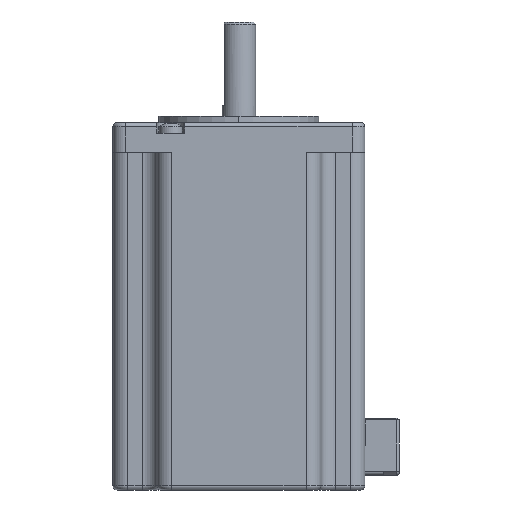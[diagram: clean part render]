
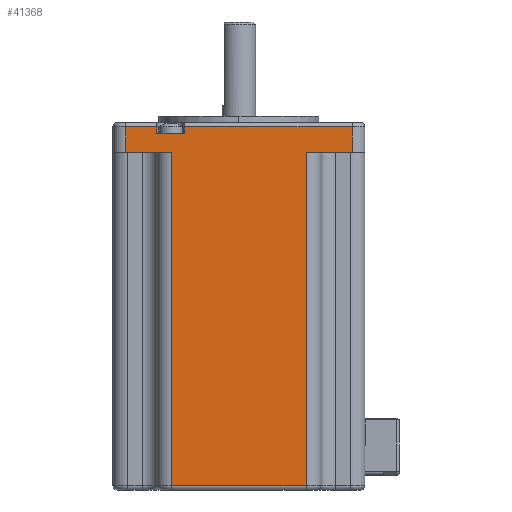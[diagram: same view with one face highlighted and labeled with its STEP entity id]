
A CAD part, left-side view. The second image highlights one B-rep face of the part: STEP entity #41368.
In plain terms, the highlighted planar face has unit normal (-1, 0, 0).
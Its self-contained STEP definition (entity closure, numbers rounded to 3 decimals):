
#1788=DIRECTION('',(0.,0.,1.));
#1789=VECTOR('',#1788,79.5);
#1790=CARTESIAN_POINT('',(-30.,-16.,1.));
#1791=LINE('',#1790,#1789);
#1806=DIRECTION('',(0.,0.,1.));
#1807=VECTOR('',#1806,6.);
#1808=CARTESIAN_POINT('',(-30.,27.,80.5));
#1809=LINE('',#1808,#1807);
#1810=DIRECTION('',(0.,-1.,0.));
#1811=VECTOR('',#1810,7.45);
#1812=CARTESIAN_POINT('',(-30.,27.,86.5));
#1813=LINE('',#1812,#1811);
#1814=DIRECTION('',(0.,0.,-1.));
#1815=VECTOR('',#1814,1.5);
#1816=CARTESIAN_POINT('',(-30.,19.55,86.5));
#1817=LINE('',#1816,#1815);
#1818=DIRECTION('',(0.,1.,0.));
#1819=VECTOR('',#1818,6.6);
#1820=CARTESIAN_POINT('',(-30.,12.95,85.));
#1821=LINE('',#1820,#1819);
#1822=DIRECTION('',(0.,0.,-1.));
#1823=VECTOR('',#1822,1.5);
#1824=CARTESIAN_POINT('',(-30.,12.95,86.5));
#1825=LINE('',#1824,#1823);
#1826=DIRECTION('',(0.,-1.,0.));
#1827=VECTOR('',#1826,39.95);
#1828=CARTESIAN_POINT('',(-30.,12.95,86.5));
#1829=LINE('',#1828,#1827);
#1830=DIRECTION('',(0.,0.,1.));
#1831=VECTOR('',#1830,6.);
#1832=CARTESIAN_POINT('',(-30.,-27.,
80.501));
#1833=LINE('',#1832,#1831);
#1834=DIRECTION('',(0.,1.,0.));
#1835=VECTOR('',#1834,32.);
#1836=CARTESIAN_POINT('',(-30.,-16.,1.));
#1837=LINE('',#1836,#1835);
#1847=DIRECTION('',(0.,0.,-1.));
#1848=VECTOR('',#1847,79.5);
#1849=CARTESIAN_POINT('',(-30.,16.,80.5));
#1850=LINE('',#1849,#1848);
#1903=DIRECTION('',(0.,-1.,0.));
#1904=VECTOR('',#1903,11.);
#1905=CARTESIAN_POINT('',(-30.,27.,80.5));
#1906=LINE('',#1905,#1904);
#26617=DIRECTION('',(0.,-1.,0.));
#26618=VECTOR('',#26617,11.);
#26619=CARTESIAN_POINT('',(-30.,-16.,
80.5));
#26620=LINE('',#26619,#26618);
#30819=CARTESIAN_POINT('',(-30.,-16.,1.));
#30820=VERTEX_POINT('',#30819);
#30823=CARTESIAN_POINT('',(-30.,16.,1.));
#30824=VERTEX_POINT('',#30823);
#38386=CARTESIAN_POINT('',(-30.,27.,
80.5));
#38388=VERTEX_POINT('',#38386);
#38389=CARTESIAN_POINT('',(-30.,-27.,
80.501));
#38391=VERTEX_POINT('',#38389);
#38423=CARTESIAN_POINT('',(-30.,16.,
80.5));
#38424=VERTEX_POINT('',#38423);
#38427=CARTESIAN_POINT('',(-30.,-16.,
80.5));
#38428=VERTEX_POINT('',#38427);
#38529=CARTESIAN_POINT('',(-30.,12.95,
85.));
#38530=CARTESIAN_POINT('',(-30.,19.55,
85.));
#38531=VERTEX_POINT('',#38529);
#38532=VERTEX_POINT('',#38530);
#38614=CARTESIAN_POINT('',(-30.,19.55,
86.5));
#38616=VERTEX_POINT('',#38614);
#38617=CARTESIAN_POINT('',(-30.,27.,
86.5));
#38618=VERTEX_POINT('',#38617);
#38655=CARTESIAN_POINT('',(-30.,-27.,
86.501));
#38656=VERTEX_POINT('',#38655);
#38657=CARTESIAN_POINT('',(-30.,12.95,
86.5));
#38659=VERTEX_POINT('',#38657);
#41343=CARTESIAN_POINT('',(-30.,30.,0.));
#41344=DIRECTION('',(-1.,0.,0.));
#41345=DIRECTION('',(0.,-1.,0.));
#41346=AXIS2_PLACEMENT_3D('',#41343,#41344,#41345);
#41347=PLANE('',#41346);
#41349=ORIENTED_EDGE('',*,*,#41348,.F.);
#41351=ORIENTED_EDGE('',*,*,#41350,.F.);
#41353=ORIENTED_EDGE('',*,*,#41352,.T.);
#41354=ORIENTED_EDGE('',*,*,#40699,.T.);
#41355=ORIENTED_EDGE('',*,*,#40717,.T.);
#41356=ORIENTED_EDGE('',*,*,#40744,.F.);
#41357=ORIENTED_EDGE('',*,*,#40763,.F.);
#41358=ORIENTED_EDGE('',*,*,#40780,.T.);
#41360=ORIENTED_EDGE('',*,*,#41359,.F.);
#41362=ORIENTED_EDGE('',*,*,#41361,.F.);
#41363=ORIENTED_EDGE('',*,*,#41333,.F.);
#41365=ORIENTED_EDGE('',*,*,#41364,.T.);
#41366=EDGE_LOOP('',(#41349,#41351,#41353,#41354,#41355,#41356,#41357,#41358,
#41360,#41362,#41363,#41365));
#41367=FACE_OUTER_BOUND('',#41366,.F.);
#41368=ADVANCED_FACE('',(#41367),#41347,.T.);
#40699=EDGE_CURVE('',#38618,#38616,#1813,.T.);
#40717=EDGE_CURVE('',#38616,#38532,#1817,.T.);
#40744=EDGE_CURVE('',#38531,#38532,#1821,.T.);
#40763=EDGE_CURVE('',#38659,#38531,#1825,.T.);
#40780=EDGE_CURVE('',#38659,#38656,#1829,.T.);
#41333=EDGE_CURVE('',#30820,#38428,#1791,.T.);
#41348=EDGE_CURVE('',#38424,#30824,#1850,.T.);
#41350=EDGE_CURVE('',#38388,#38424,#1906,.T.);
#41352=EDGE_CURVE('',#38388,#38618,#1809,.T.);
#41359=EDGE_CURVE('',#38391,#38656,#1833,.T.);
#41361=EDGE_CURVE('',#38428,#38391,#26620,.T.);
#41364=EDGE_CURVE('',#30820,#30824,#1837,.T.);
